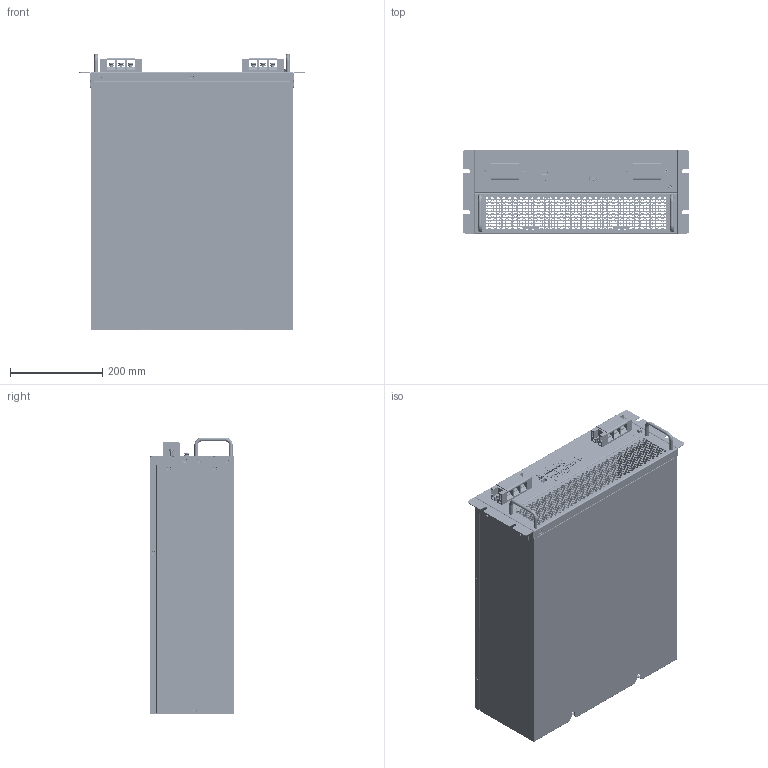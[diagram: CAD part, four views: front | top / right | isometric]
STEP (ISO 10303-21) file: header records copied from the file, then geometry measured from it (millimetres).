
FILE_DESCRIPTION (( 'STEP AP214' ), '1' );
FILE_NAME ('SP120HDC_»ú¿Ç-2024062202.STEP', '2024-06-22T10:48:12', ( '' ), ( '' ), 'SwSTEP 2.0', 'SolidWorks 2018', '' );
FILE_SCHEMA (( 'AUTOMOTIVE_DESIGN' ));
Length unit declared in the file: millimetre
Products named in the file (2): SP120HDC_儂褲-2024062202
Bounding box: 490 x 183 x 600 mm (x, y, z)
Surface area: 1944596.4 mm2 (no closed solid volume)
Topology: 0 solids, 171 shells, 15533 faces, 42829 edges, 28080 vertices
Faces by surface type: plane 12793, cylinder 1235, bspline 882, cone 548, torus 75
Entity records: 674338 total; most frequent: CARTESIAN_POINT 105595, ORIENTED_EDGE 85626, DIRECTION 73247, EDGE_CURVE 42817, VECTOR 37417, LINE 37417, VERTEX_POINT 28080, EDGE_LOOP 18494
